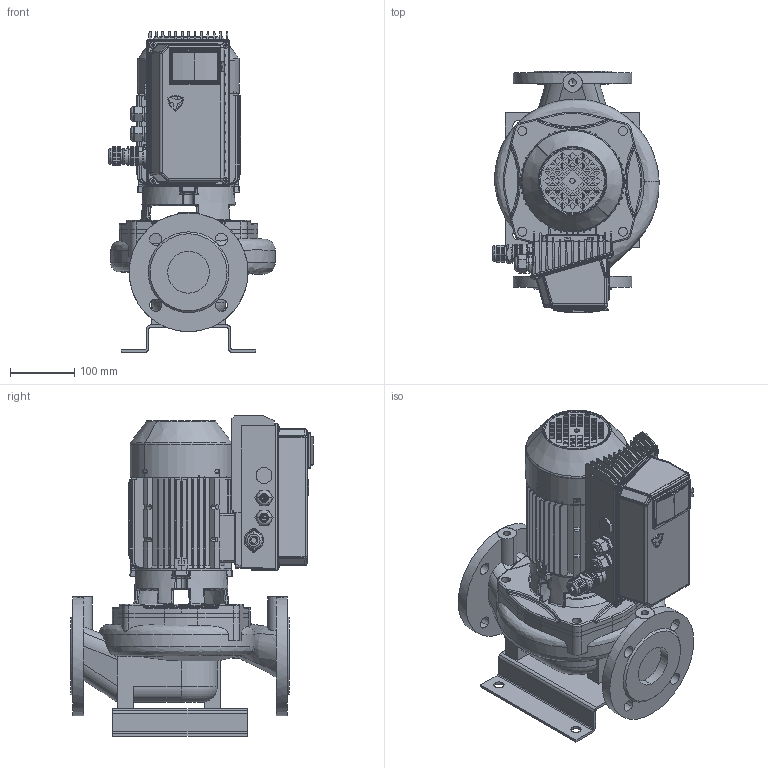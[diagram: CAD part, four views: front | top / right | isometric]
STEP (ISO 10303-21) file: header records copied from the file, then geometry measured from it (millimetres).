
FILE_DESCRIPTION(('STEP AP214'),'1');
FILE_NAME('export.stp','2018-05-31T12:09:25',(' '),(' '),'Spatial InterOp 3D',' ',' ');
FILE_SCHEMA(('AUTOMOTIVE_DESIGN { 1 0 10303 214 1 1 1 1 }'));
Length unit declared in the file: millimetre
Products named in the file (38): W_L65A4770_withou; V_TLL65AB80A1102; V_PPL65AB; V_JALKA35973; W_L65A4_SC; 160022; 160003; V_MKP80-2-F19_SC; 480032; 480031___; 480034; 480033___; 160133; P100518; P100576; P100453; P100467; DIN_7985-M5x12; P100515; P100512; P100513; P100514; P100509; ontto_sylinteri; DIN_7985-M3x12; P100569; P100567; P100566; P100565; P100606; P100607; P100580; P101504; P101332; PART3; PART4
Assembly tree (42 placements, depth 5):
  W_L65A4_SC
    W_L65A4770_withou
      V_TLL65AB80A1102
      V_PPL65AB
      V_JALKA35973
    V_MKP80-2-F19_SC
      160022
        160003
      480032
        480031___
      480034
        480033___
      160133
      P100518
        P100576
        P100453
        P100467
        DIN_7985-M5x12  x4
        P100515
          P100512
          P100513
          P100514
          P100509
          ontto_sylinteri
        DIN_7985-M3x12  x2
        P100569
        P100567
          P100566
          P100565
          ontto_sylinteri
        P100606
          P100607
          P100565
          ontto_sylinteri
        P100580
        P101504
        P101332
          PART3
          PART4
Bounding box: 259.34 x 377.54 x 500.28 mm (x, y, z)
Volume: 6794274.5 mm3; surface area: 1505418.5 mm2
Topology: 31 solids, 32 shells, 4404 faces, 11583 edges, 7267 vertices
Faces by surface type: plane 1797, cylinder 1459, torus 418, bspline 353, cone 225, sphere 152
Entity records: 182975 total; most frequent: CARTESIAN_POINT 51114, ORIENTED_EDGE 22413, DIRECTION 21896, EDGE_CURVE 11209, AXIS2_PLACEMENT_3D 8275, VERTEX_POINT 7093, LINE 5346, VECTOR 5346
